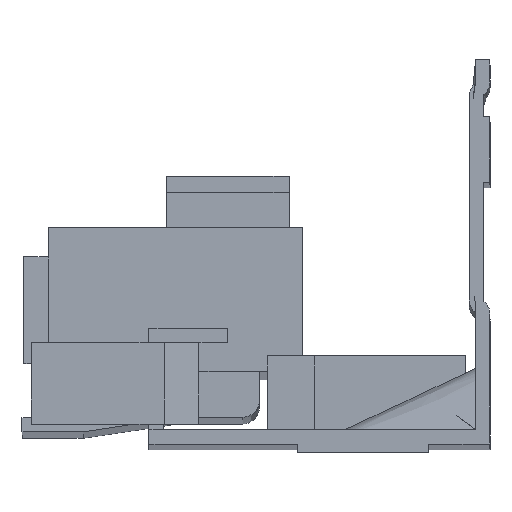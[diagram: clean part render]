
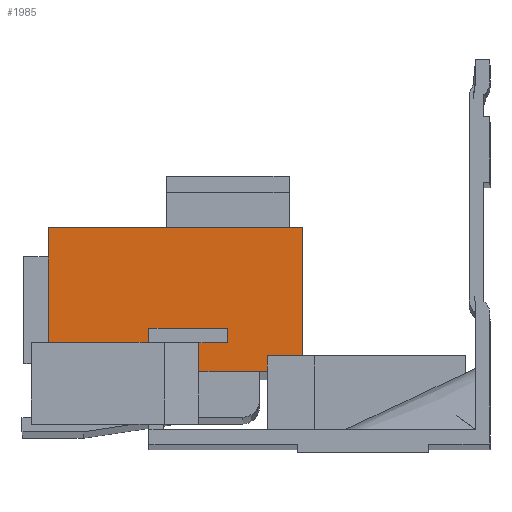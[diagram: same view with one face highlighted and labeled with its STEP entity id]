
A CAD part, front view. The second image highlights one B-rep face of the part: STEP entity #1985.
In plain terms, the highlighted planar face has unit normal (0, -1, 0).
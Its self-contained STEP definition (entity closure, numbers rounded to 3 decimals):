
#100 = FACE_OUTER_BOUND ( 'NONE', #381, .T. ) ;
#367 = ORIENTED_EDGE ( 'NONE', *, *, #4773, .T. ) ;
#368 = ORIENTED_EDGE ( 'NONE', *, *, #4772, .T. ) ;
#369 = ORIENTED_EDGE ( 'NONE', *, *, #4771, .T. ) ;
#370 = ORIENTED_EDGE ( 'NONE', *, *, #4770, .T. ) ;
#371 = ORIENTED_EDGE ( 'NONE', *, *, #4844, .T. ) ;
#372 = ORIENTED_EDGE ( 'NONE', *, *, #4820, .T. ) ;
#373 = ORIENTED_EDGE ( 'NONE', *, *, #4799, .F. ) ;
#374 = ORIENTED_EDGE ( 'NONE', *, *, #4780, .F. ) ;
#375 = ORIENTED_EDGE ( 'NONE', *, *, #4769, .F. ) ;
#376 = ORIENTED_EDGE ( 'NONE', *, *, #4768, .F. ) ;
#377 = ORIENTED_EDGE ( 'NONE', *, *, #4767, .F. ) ;
#378 = ORIENTED_EDGE ( 'NONE', *, *, #4766, .T. ) ;
#381 = EDGE_LOOP ( 'NONE', ( #367, #368, #369, #370, #371, #372, #373, #374, #375, #376, #377, #378 ) ) ;
#1368 = LINE ( 'NONE', #2786, #1369 ) ;
#1369 = VECTOR ( 'NONE', #2787, 1000. ) ;
#1370 = LINE ( 'NONE', #2788, #1371 ) ;
#1371 = VECTOR ( 'NONE', #2789, 1000. ) ;
#1372 = LINE ( 'NONE', #2790, #1373 ) ;
#1373 = VECTOR ( 'NONE', #2791, 1000. ) ;
#1374 = LINE ( 'NONE', #2792, #1375 ) ;
#1375 = VECTOR ( 'NONE', #2793, 1000. ) ;
#1376 = LINE ( 'NONE', #2794, #1377 ) ;
#1377 = VECTOR ( 'NONE', #2795, 1000. ) ;
#1378 = LINE ( 'NONE', #2796, #1379 ) ;
#1379 = VECTOR ( 'NONE', #2797, 1000. ) ;
#1380 = LINE ( 'NONE', #2798, #1381 ) ;
#1381 = VECTOR ( 'NONE', #2799, 1000. ) ;
#1382 = LINE ( 'NONE', #2800, #1383 ) ;
#1383 = VECTOR ( 'NONE', #2801, 1000. ) ;
#1396 = LINE ( 'NONE', #2814, #1397 ) ;
#1397 = VECTOR ( 'NONE', #2815, 1000. ) ;
#1434 = LINE ( 'NONE', #2852, #1435 ) ;
#1435 = VECTOR ( 'NONE', #2853, 1000. ) ;
#1476 = LINE ( 'NONE', #2894, #1477 ) ;
#1477 = VECTOR ( 'NONE', #2895, 1000. ) ;
#1519 = LINE ( 'NONE', #2947, #1520 ) ;
#1520 = VECTOR ( 'NONE', #2948, 1000. ) ;
#1985 = ADVANCED_FACE ( 'NONE', ( #100 ), #3876, .F. ) ;
#2345 = CARTESIAN_POINT ( 'NONE',  ( -27.15, -20., -27.058 ) ) ;
#2365 = CARTESIAN_POINT ( 'NONE',  ( -41.6, -20., -23.558 ) ) ;
#2371 = CARTESIAN_POINT ( 'NONE',  ( -32., -20., -23.608 ) ) ;
#2373 = CARTESIAN_POINT ( 'NONE',  ( -41.6, -20., -21.858 ) ) ;
#2374 = CARTESIAN_POINT ( 'NONE',  ( -32., -20., -21.858 ) ) ;
#2381 = CARTESIAN_POINT ( 'NONE',  ( -27.15, -20., -25.181 ) ) ;
#2382 = CARTESIAN_POINT ( 'NONE',  ( -53.9, -20., -23.558 ) ) ;
#2395 = CARTESIAN_POINT ( 'NONE',  ( -22.9, -20., -25.181 ) ) ;
#2398 = CARTESIAN_POINT ( 'NONE',  ( -35.5, -20., -27.058 ) ) ;
#2403 = CARTESIAN_POINT ( 'NONE',  ( -35.5, -20., -23.608 ) ) ;
#2542 = CARTESIAN_POINT ( 'NONE',  ( -22.9, -20., -9.558 ) ) ;
#2544 = CARTESIAN_POINT ( 'NONE',  ( -53.9, -20., -9.558 ) ) ;
#2786 = CARTESIAN_POINT ( 'NONE',  ( -35.5, -20., -27.058 ) ) ;
#2787 = DIRECTION ( 'NONE',  ( 0., 0., -1. ) ) ;
#2788 = CARTESIAN_POINT ( 'NONE',  ( -32., -20., -23.608 ) ) ;
#2789 = DIRECTION ( 'NONE',  ( 1., 0., 0. ) ) ;
#2790 = CARTESIAN_POINT ( 'NONE',  ( -32., -20., -21.831 ) ) ;
#2791 = DIRECTION ( 'NONE',  ( 0., 0., 1. ) ) ;
#2792 = CARTESIAN_POINT ( 'NONE',  ( -41.6, -20., -21.858 ) ) ;
#2793 = DIRECTION ( 'NONE',  ( -1., 0., 0. ) ) ;
#2794 = CARTESIAN_POINT ( 'NONE',  ( -22.9, -20., -27.058 ) ) ;
#2795 = DIRECTION ( 'NONE',  ( 0., 0., 1. ) ) ;
#2796 = CARTESIAN_POINT ( 'NONE',  ( -49.9, -20., -25.181 ) ) ;
#2797 = DIRECTION ( 'NONE',  ( 1., 0., 0. ) ) ;
#2798 = CARTESIAN_POINT ( 'NONE',  ( -27.15, -20., -27.058 ) ) ;
#2799 = DIRECTION ( 'NONE',  ( 0., 0., 1. ) ) ;
#2800 = CARTESIAN_POINT ( 'NONE',  ( -49.9, -20., -27.058 ) ) ;
#2801 = DIRECTION ( 'NONE',  ( 1., 0., 0. ) ) ;
#2814 = CARTESIAN_POINT ( 'NONE',  ( -41.6, -20., -35.931 ) ) ;
#2815 = DIRECTION ( 'NONE',  ( 0., 0., -1. ) ) ;
#2852 = CARTESIAN_POINT ( 'NONE',  ( -49.9, -20., -23.558 ) ) ;
#2853 = DIRECTION ( 'NONE',  ( -1., 0., 0. ) ) ;
#2894 = CARTESIAN_POINT ( 'NONE',  ( -53.9, -20., -29.558 ) ) ;
#2895 = DIRECTION ( 'NONE',  ( 0., 0., -1. ) ) ;
#2947 = CARTESIAN_POINT ( 'NONE',  ( -53.9, -20., -9.558 ) ) ;
#2948 = DIRECTION ( 'NONE',  ( -1., 0., 0. ) ) ;
#3363 = VERTEX_POINT ( 'NONE', #2345 ) ;
#3383 = VERTEX_POINT ( 'NONE', #2365 ) ;
#3389 = VERTEX_POINT ( 'NONE', #2371 ) ;
#3391 = VERTEX_POINT ( 'NONE', #2373 ) ;
#3392 = VERTEX_POINT ( 'NONE', #2374 ) ;
#3399 = VERTEX_POINT ( 'NONE', #2381 ) ;
#3400 = VERTEX_POINT ( 'NONE', #2382 ) ;
#3413 = VERTEX_POINT ( 'NONE', #2395 ) ;
#3416 = VERTEX_POINT ( 'NONE', #2398 ) ;
#3421 = VERTEX_POINT ( 'NONE', #2403 ) ;
#3873 = DIRECTION ( 'NONE',  ( -1., 0., 0. ) ) ;
#3874 = DIRECTION ( 'NONE',  ( 0., 1., 0. ) ) ;
#3875 = CARTESIAN_POINT ( 'NONE',  ( -49.9, -20., -27.058 ) ) ;
#3876 = PLANE ( 'NONE',  #5000 ) ;
#4563 = VERTEX_POINT ( 'NONE', #2542 ) ;
#4567 = VERTEX_POINT ( 'NONE', #2544 ) ;
#4766 = EDGE_CURVE ( 'NONE', #3421, #3416, #1368, .T. ) ;
#4767 = EDGE_CURVE ( 'NONE', #3421, #3389, #1370, .T. ) ;
#4768 = EDGE_CURVE ( 'NONE', #3389, #3392, #1372, .T. ) ;
#4769 = EDGE_CURVE ( 'NONE', #3392, #3391, #1374, .T. ) ;
#4770 = EDGE_CURVE ( 'NONE', #3413, #4563, #1376, .T. ) ;
#4771 = EDGE_CURVE ( 'NONE', #3399, #3413, #1378, .T. ) ;
#4772 = EDGE_CURVE ( 'NONE', #3363, #3399, #1380, .T. ) ;
#4773 = EDGE_CURVE ( 'NONE', #3416, #3363, #1382, .T. ) ;
#4780 = EDGE_CURVE ( 'NONE', #3391, #3383, #1396, .T. ) ;
#4799 = EDGE_CURVE ( 'NONE', #3383, #3400, #1434, .T. ) ;
#4820 = EDGE_CURVE ( 'NONE', #4567, #3400, #1476, .T. ) ;
#4844 = EDGE_CURVE ( 'NONE', #4563, #4567, #1519, .T. ) ;
#5000 = AXIS2_PLACEMENT_3D ( 'NONE', #3875, #3874, #3873 ) ;
